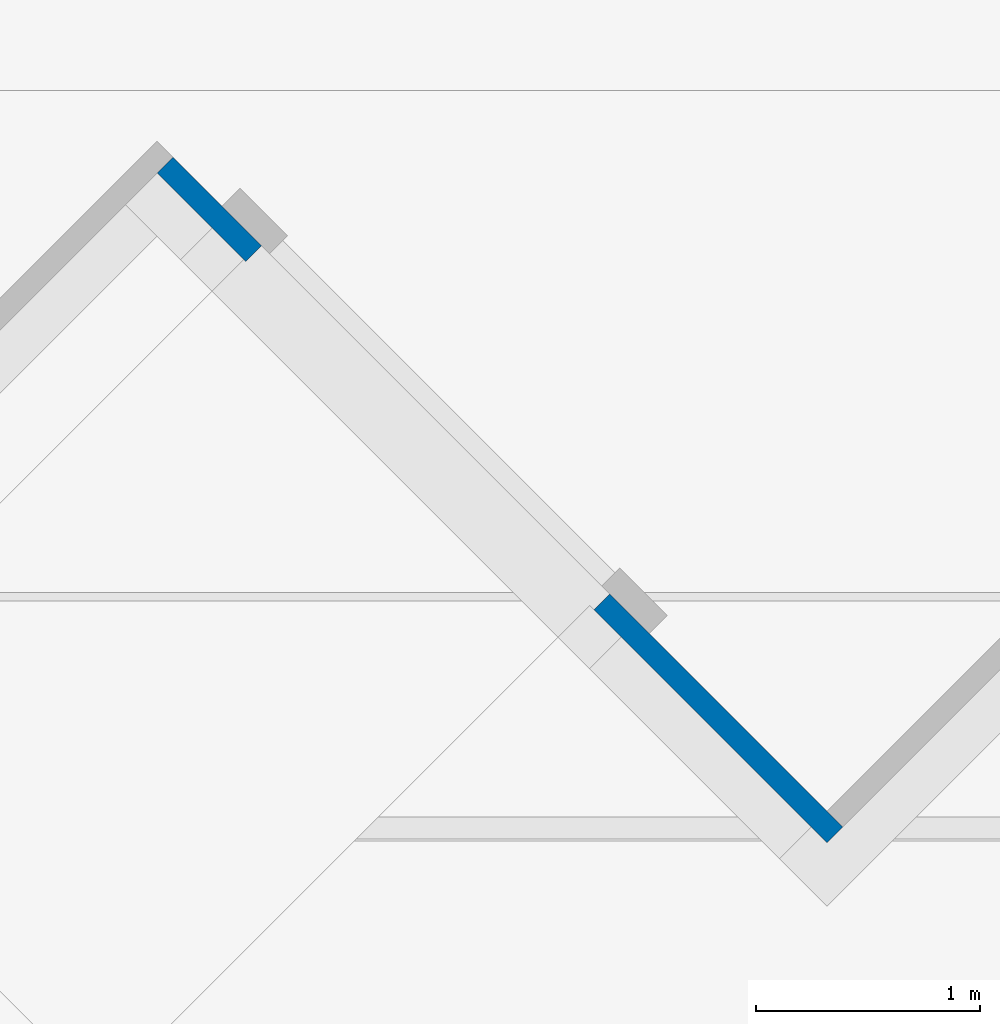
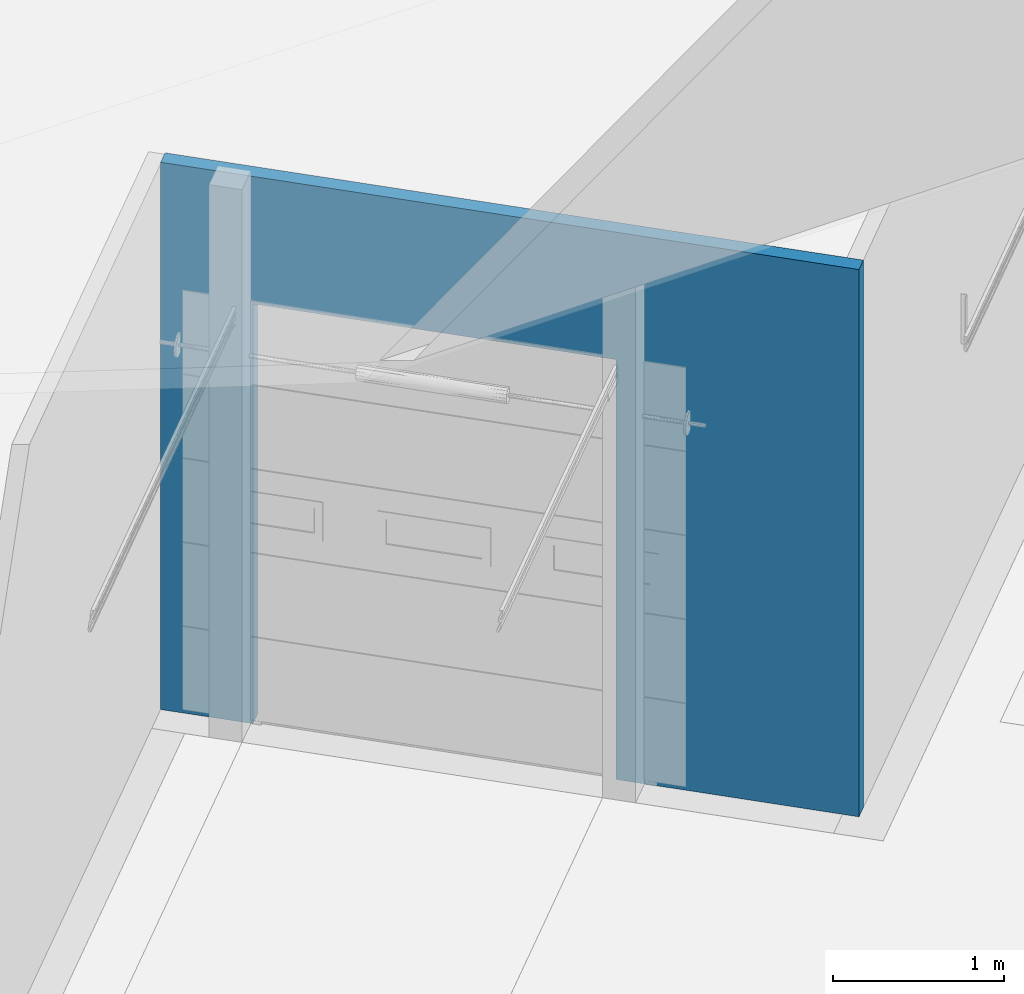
# One storey, part 36 of 64: 1 wall, 1 opening.
"""IFC2X3 building model written with IfcOpenShell, lengths in millimetres."""

import ifcopenshell
import ifcopenshell.guid

model = None  # the IFC model being written
_history = None  # IfcOwnerHistory: only IFC2X3 demands one
_inside = {}  # id of a spatial element -> (the spatial element, [elements in it])
_under = {}  # id of a project, library or spatial element -> (it, [spatial elements below it])
_declared = {}  # id of a project -> (the project, [libraries it declares])
_typed = {}  # id of a type object -> (the type object, [elements of that type])
_made_of = {}  # id of a material, layer set ... -> (it, [elements and type objects made of it])


def new_model(schema):
    """Start an empty IFC model of exactly this schema.

    Asked for "IFC4X3", IfcOpenShell would pick the latest addendum, in which some entities
    have other attributes; the version numbers below select the first issue.
    IFC2X3 requires an IfcOwnerHistory on every rooted entity: one is made here for all.
    """
    global model, _history
    if schema == "IFC4X3":
        model = ifcopenshell.file(schema_version=(4, 3, 0, 0))
    else:
        model = ifcopenshell.file(schema=schema)
    _inside.clear()
    _under.clear()
    _declared.clear()
    _typed.clear()
    _made_of.clear()
    _history = None
    if model.schema == "IFC2X3":
        org = make("IfcOrganization", Name="unknown")
        user = make(
            "IfcPersonAndOrganization",
            ThePerson=make("IfcPerson", FamilyName="unknown"),
            TheOrganization=org,
        )
        app = make(
            "IfcApplication",
            ApplicationDeveloper=org,
            Version="unknown",
            ApplicationFullName="unknown",
            ApplicationIdentifier="unknown",
        )
        _history = make(
            "IfcOwnerHistory",
            OwningUser=user,
            OwningApplication=app,
            ChangeAction="ADDED",
            CreationDate=0,
        )
    return model


def make(cls, **values):
    """One entity of the class cls with the attributes given. An attribute that is None is left unset."""
    return model.create_entity(
        cls, **{name: value for name, value in values.items() if value is not None}
    )


def entity(cls, *values):
    """Any entity or typed value of the class cls, its attributes in the order of the schema. None: left unset."""
    e = model.create_entity(cls)
    for i, value in enumerate(values):
        if value is not None:
            e[i] = value
    return e


def rooted(cls, **values):
    """An entity with a GlobalId (a new one), such as an element, a storey or a relation."""
    return make(cls, GlobalId=ifcopenshell.guid.new(), OwnerHistory=_history, **values)


def si_unit(unit_type, name, prefix=None):
    """IfcSIUnit, for example si_unit("LENGTHUNIT", "METRE", prefix="MILLI")."""
    return make("IfcSIUnit", UnitType=unit_type, Prefix=prefix, Name=name)


def converted_unit(unit_type, name, factor, base, dimensions=None, offset=None):
    """IfcConversionBasedUnit, such as the inch: factor (a typed value) times the base unit."""
    return make(
        "IfcConversionBasedUnit"
        if offset is None
        else "IfcConversionBasedUnitWithOffset",
        ConversionOffset=offset,
        Dimensions=None
        if dimensions is None
        else entity("IfcDimensionalExponents", *dimensions),
        UnitType=unit_type,
        Name=name,
        ConversionFactor=make(
            "IfcMeasureWithUnit", ValueComponent=factor, UnitComponent=base
        ),
    )


def derived_unit(unit_type, elements):
    """IfcDerivedUnit: a product of units, each with its exponent."""
    return make(
        "IfcDerivedUnit",
        Elements=[
            make("IfcDerivedUnitElement", Unit=unit, Exponent=power)
            for unit, power in elements
        ],
        UnitType=unit_type,
    )


def assignment(units):
    """IfcUnitAssignment: the units of a project."""
    return None if units is None else make("IfcUnitAssignment", Units=units)


def point(xyz):
    """IfcCartesianPoint."""
    return None if xyz is None else make("IfcCartesianPoint", Coordinates=xyz)


def direction(xyz):
    """IfcDirection."""
    return None if xyz is None else make("IfcDirection", DirectionRatios=xyz)


def frame(location, z_axis=None, x_axis=None):
    """IfcAxis2Placement3D, a coordinate frame: its origin and axes. An axis left out is left unset."""
    return make(
        "IfcAxis2Placement3D",
        Location=point(location),
        Axis=direction(z_axis),
        RefDirection=direction(x_axis),
    )


def frame_2d(location, x_axis=None):
    """IfcAxis2Placement2D, a coordinate frame in the plane: its origin and x axis."""
    return make(
        "IfcAxis2Placement2D", Location=point(location), RefDirection=direction(x_axis)
    )


def origin():
    """The frame at (0, 0, 0) with its axes left unset."""
    return frame((0.0, 0.0, 0.0))


def place(relative_to, where):
    """IfcLocalPlacement: puts the frame where relative to a parent placement (None: the world)."""
    return make(
        "IfcLocalPlacement", PlacementRelTo=relative_to, RelativePlacement=where
    )


def context(
    kind, dimensions, precision=None, world=None, true_north=None, identifier=None
):
    """IfcGeometricRepresentationContext, for example the 3D "Model" context."""
    return make(
        "IfcGeometricRepresentationContext",
        ContextIdentifier=identifier,
        ContextType=kind,
        CoordinateSpaceDimension=dimensions,
        Precision=precision,
        WorldCoordinateSystem=world,
        TrueNorth=true_north,
    )


def subcontext(parent, identifier, kind, view, scale=None):
    """IfcGeometricRepresentationSubContext, for example "Body" below "Model"."""
    return make(
        "IfcGeometricRepresentationSubContext",
        ContextIdentifier=identifier,
        ContextType=kind,
        ParentContext=parent,
        TargetScale=scale,
        TargetView=view,
    )


def project(units=None, contexts=None):
    """IfcProject with its units and contexts."""
    return rooted(
        "IfcProject",
        Name="project",
        RepresentationContexts=contexts,
        UnitsInContext=assignment(units),
    )


def spatial(cls, under=None, at=None, **own):
    """A site, building, storey or space (cls), placed at a placement, below another one or the project."""
    s = rooted(cls, ObjectPlacement=at, **own)
    if under is not None:
        _under.setdefault(under.id(), (under, []))[1].append(s)
    return s


def profile(cls, at=None, kind="AREA", **sizes):
    """A parametric profile (cls). Its sizes go by their IFC names, for example OverallWidth=200.0."""
    return make(cls, ProfileType=kind, Position=at, **sizes)


def rectangle(**sizes):
    """IfcRectangleProfileDef."""
    return profile("IfcRectangleProfileDef", **sizes)


def extrude(swept, where, along, depth):
    """IfcExtrudedAreaSolid: the profile swept, set in the frame where, extruded along a direction by depth."""
    return make(
        "IfcExtrudedAreaSolid",
        SweptArea=swept,
        Position=where,
        ExtrudedDirection=direction(along),
        Depth=depth,
    )


def shape(context_of_items, identifier, shape_type, items):
    """IfcShapeRepresentation: the items that make up one representation, for example the "Body"."""
    return make(
        "IfcShapeRepresentation",
        ContextOfItems=context_of_items,
        RepresentationIdentifier=identifier,
        RepresentationType=shape_type,
        Items=items,
    )


def material(Name=None, Category=None):
    """IfcMaterial."""
    return make("IfcMaterial", Name=Name, Category=Category)


def layer(
    of_material, thickness, ventilated=None, Name=None, Category=None, Priority=None
):
    """IfcMaterialLayer: one layer of a wall or slab, of a material (None: an air gap)."""
    return make(
        "IfcMaterialLayer",
        Material=of_material,
        LayerThickness=thickness,
        IsVentilated=ventilated,
        Name=Name,
        Category=Category,
        Priority=Priority,
    )


def layer_set(layers, Name=None):
    """IfcMaterialLayerSet."""
    return make("IfcMaterialLayerSet", MaterialLayers=layers, LayerSetName=Name)


def layer_usage(for_layer_set, set_direction, sense, offset, extent=None):
    """IfcMaterialLayerSetUsage: how a layer set lies in its element."""
    return make(
        "IfcMaterialLayerSetUsage",
        ForLayerSet=for_layer_set,
        LayerSetDirection=set_direction,
        DirectionSense=sense,
        OffsetFromReferenceLine=offset,
        ReferenceExtent=extent,
    )


def made_of(thing, what):
    """Note that an element or type object is made of a material, layer set ...; save() writes the relation."""
    if what is not None:
        _made_of.setdefault(what.id(), (what, []))[1].append(thing)
    return thing


def type_object(cls, material=None, **own):
    """A type object (cls), such as IfcWallType, which elements share."""
    return made_of(rooted(cls, **own), material)


def element(
    cls,
    number,
    at=None,
    inside=None,
    cuts=None,
    type_object=None,
    material=None,
    context=None,
    identifier="Body",
    shape_type=None,
    held_by="IfcProductDefinitionShape",
    body=None,
    shapes=None,
    **own,
):
    """One element of the class cls, such as IfcWall. Its Tag is "e" and its number.

    at: its placement. inside: the storey or other place that contains it. cuts: it is an
    opening in that element (IfcRelVoidsElement). A single representation is given by context,
    identifier, shape_type and body (its items); several are given by shapes. held_by: the class
    of the entity that holds the representations. save() writes the other relations.
    """
    e = rooted(cls, Tag="e%d" % number, ObjectPlacement=at, **own)
    if body is not None:
        shapes = [shape(context, identifier, shape_type, body)]
    if shapes is not None:
        e.Representation = make(held_by, Representations=shapes)
    if inside is not None:
        _inside.setdefault(inside.id(), (inside, []))[1].append(e)
    if cuts is not None:
        rooted(
            "IfcRelVoidsElement", RelatingBuildingElement=cuts, RelatedOpeningElement=e
        )
    if type_object is not None:
        _typed.setdefault(type_object.id(), (type_object, []))[1].append(e)
    return made_of(e, material)


def aggregate(whole, parts):
    """IfcRelAggregates: a whole, such as a stair, and the parts it consists of."""
    return rooted("IfcRelAggregates", RelatingObject=whole, RelatedObjects=parts)


def save(model, path):
    """Write the relations noted so far, then the file.

    IfcRelAggregates (storeys below a building ...), IfcRelContainedInSpatialStructure (elements
    in a storey), IfcRelDefinesByType, IfcRelAssociatesMaterial and IfcRelDeclares: one each for
    every whole, place, type object, material and project.
    """
    for whole, parts in _under.values():
        aggregate(whole, parts)
    for where, things in _inside.values():
        rooted(
            "IfcRelContainedInSpatialStructure",
            RelatedElements=things,
            RelatingStructure=where,
        )
    for kind, things in _typed.values():
        rooted("IfcRelDefinesByType", RelatedObjects=things, RelatingType=kind)
    for what, things in _made_of.values():
        rooted("IfcRelAssociatesMaterial", RelatedObjects=things, RelatingMaterial=what)
    for by, libraries in _declared.values():
        rooted("IfcRelDeclares", RelatingContext=by, RelatedDefinitions=libraries)
    model.write(path)


model = new_model("IFC2X3")

# Units and contexts
model_context = context("Model", 3, precision=0.01, world=origin(), true_north=direction((4.05803320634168e-15, -1.0)))
body_context = subcontext(model_context, "Body", "Model", "MODEL_VIEW")
ifc_project = project(units=[si_unit("LENGTHUNIT", "METRE", prefix="MILLI"), si_unit("AREAUNIT", "SQUARE_METRE"), si_unit("VOLUMEUNIT", "CUBIC_METRE"), converted_unit("PLANEANGLEUNIT", "DEGREE", entity("IfcRatioMeasure", 0.0174532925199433), si_unit("PLANEANGLEUNIT", "RADIAN"), dimensions=[0, 0, 0, 0, 0, 0, 0]), si_unit("MASSUNIT", "GRAM", prefix="KILO"), derived_unit("MASSDENSITYUNIT", [(si_unit("MASSUNIT", "GRAM", prefix="KILO"), 1), (si_unit("LENGTHUNIT", "METRE"), -3)]), si_unit("TIMEUNIT", "SECOND"), si_unit("FREQUENCYUNIT", "HERTZ"), si_unit("THERMODYNAMICTEMPERATUREUNIT", "DEGREE_CELSIUS"), derived_unit("THERMALTRANSMITTANCEUNIT", [(si_unit("MASSUNIT", "GRAM", prefix="KILO"), 1), (si_unit("THERMODYNAMICTEMPERATUREUNIT", "KELVIN"), -1), (si_unit("TIMEUNIT", "SECOND"), -3)]), derived_unit("VOLUMETRICFLOWRATEUNIT", [(si_unit("LENGTHUNIT", "METRE"), 3), (si_unit("TIMEUNIT", "SECOND"), -1)]), si_unit("ELECTRICCURRENTUNIT", "AMPERE"), si_unit("ELECTRICVOLTAGEUNIT", "VOLT"), si_unit("POWERUNIT", "WATT"), si_unit("FORCEUNIT", "NEWTON", prefix="KILO"), si_unit("ILLUMINANCEUNIT", "LUX"), si_unit("LUMINOUSFLUXUNIT", "LUMEN"), si_unit("LUMINOUSINTENSITYUNIT", "CANDELA"), derived_unit("USERDEFINED", [(si_unit("MASSUNIT", "GRAM", prefix="KILO"), -1), (si_unit("LENGTHUNIT", "METRE"), -2), (si_unit("TIMEUNIT", "SECOND"), 3), (si_unit("LUMINOUSFLUXUNIT", "LUMEN"), 1)]), derived_unit("LINEARVELOCITYUNIT", [(si_unit("LENGTHUNIT", "METRE"), 1), (si_unit("TIMEUNIT", "SECOND"), -1)]), si_unit("PRESSUREUNIT", "PASCAL"), derived_unit("USERDEFINED", [(si_unit("LENGTHUNIT", "METRE"), -2), (si_unit("MASSUNIT", "GRAM", prefix="KILO"), 1), (si_unit("TIMEUNIT", "SECOND"), -2)])], contexts=[model_context])

# Site, building, storey
site_placement = place(None, frame((927466.849349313, 583801.882853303, 0.0), z_axis=(0.0, 0.0, 1.0), x_axis=(-1.0, 0.0, 0.0)))
site = spatial("IfcSite", under=ifc_project, at=site_placement, Name="Surface", CompositionType="ELEMENT")
building_placement = place(site_placement, origin())
building = spatial("IfcBuilding", under=site, at=building_placement, CompositionType="ELEMENT")
storey_placement = place(building_placement, frame((0.0, 0.0, 44170.0)))
storey = spatial("IfcBuildingStorey", under=building, at=storey_placement, Name="Ground FFL", CompositionType="ELEMENT", Elevation=44170.0)

# Wall, opening
ifc_material = material(Name="Isopenal")
ifc_layer = layer(ifc_material, 100.0)
ifc_layer_set = layer_set([ifc_layer], Name="Basic Wall:Isopanel")
ifc_layer_usage = layer_usage(ifc_layer_set, "AXIS2", "POSITIVE", -50.0)
wall_type = type_object("IfcWallType", Name="Basic Wall:Isopanel", PredefinedType="STANDARD", material=ifc_layer_set)
wall_placement = place(storey_placement, frame((-87069.8071132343, -30575.5946140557, 0.0), z_axis=(0.0, 0.0, 1.0), x_axis=(0.707106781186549, -0.707106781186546, 0.0)))
wall = element("IfcWallStandardCase", 1, at=wall_placement, inside=storey, type_object=wall_type, material=ifc_layer_usage, Name="Basic Wall:Isopanel", ObjectType="Basic Wall:Isopanel", context=body_context, shape_type="SweptSolid", body=[
    extrude(rectangle(XDim=4232.26267936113, YDim=99.9999999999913, at=frame_2d((2116.13133968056, 8.13571432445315e-13), x_axis=(-1.0, 0.0))), origin(), (0.0, 0.0, 1.0), 3910.35154955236),
])
opening_placement = place(wall_placement, frame((1472.26267936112, -50.0, 0.0)))
element("IfcOpeningElement", 2, at=opening_placement, cuts=wall, Name="6m_Roller Shutter Doors:3000(w) x 3000(h):1", ObjectType="Opening", context=body_context, shape_type="SweptSolid", body=[
    extrude(rectangle(XDim=3000.0, YDim=2200.0, at=frame_2d((1500.0, 1100.0), x_axis=(1.0, 0.0))), frame((0.0, 0.0, 0.0), z_axis=(0.0, 1.0, 0.0), x_axis=(0.0, 0.0, 1.0)), (0.0, 0.0, 1.0), 100.0),
])

save(model, "model.ifc")
